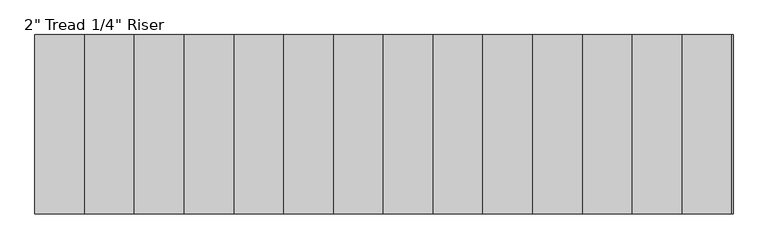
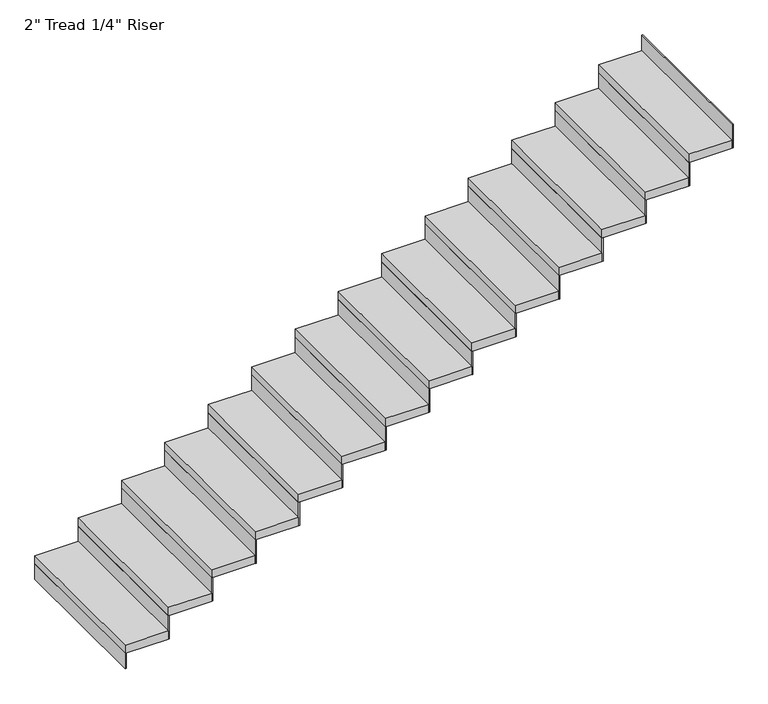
"""IFC4 building model written with IfcOpenShell, lengths in millimetres: stair flight geometry."""

from ifc_helpers import new_model, si_unit, frame, origin, origin_with_axes, place, context, project, spatial, polyline, outline, extrude, source, transform, mapped, element, save


def stair_flight_0488f1b2(model_context):
    return source(origin(), model_context, "Body", "SweptSolid", [
        extrude(outline(polyline([(84475.4645262, 15846.0395941), (84469.1145262, 15846.0395941), (84469.1145262, 16760.4395941), (84475.4645262, 16760.4395941), (84475.4645262, 15846.0395941)])), origin_with_axes(), (0.0, 0.0, 1.0), 94.3428571),
        extrude(outline(polyline([(84723.1145262, 16760.4395941), (84723.1145262, 15846.0395941), (84469.1145262, 15846.0395941), (84469.1145262, 16760.4395941), (84723.1145262, 16760.4395941)])), frame((0.0, 0.0, 94.3428571), z_axis=(0.0, 0.0, 1.0), x_axis=(1.0, 0.0, 0.0)), (0.0, 0.0, 1.0), 50.8),
        extrude(outline(polyline([(84729.4645262, 15846.0395941), (84723.1145262, 15846.0395941), (84723.1145262, 16760.4395941), (84729.4645262, 16760.4395941), (84729.4645262, 15846.0395941)])), frame((0.0, 0.0, 94.3428571), z_axis=(0.0, 0.0, 1.0), x_axis=(1.0, 0.0, 0.0)), (0.0, 0.0, 1.0), 145.1428571),
        extrude(outline(polyline([(84977.1145262, 16760.4395941), (84977.1145262, 15846.0395941), (84723.1145262, 15846.0395941), (84723.1145262, 16760.4395941), (84977.1145262, 16760.4395941)])), frame((0.0, 0.0, 239.4857143), z_axis=(0.0, 0.0, 1.0), x_axis=(1.0, 0.0, 0.0)), (0.0, 0.0, 1.0), 50.8),
        extrude(outline(polyline([(84983.4645262, 15846.0395941), (84977.1145262, 15846.0395941), (84977.1145262, 16760.4395941), (84983.4645262, 16760.4395941), (84983.4645262, 15846.0395941)])), frame((0.0, 0.0, 239.4857143), z_axis=(0.0, 0.0, 1.0), x_axis=(1.0, 0.0, 0.0)), (0.0, 0.0, 1.0), 145.1428571),
        extrude(outline(polyline([(85231.1145262, 16760.4395941), (85231.1145262, 15846.0395941), (84977.1145262, 15846.0395941), (84977.1145262, 16760.4395941), (85231.1145262, 16760.4395941)])), frame((0.0, 0.0, 384.6285714), z_axis=(0.0, 0.0, 1.0), x_axis=(1.0, 0.0, 0.0)), (0.0, 0.0, 1.0), 50.8),
        extrude(outline(polyline([(85237.4645262, 15846.0395941), (85231.1145262, 15846.0395941), (85231.1145262, 16760.4395941), (85237.4645262, 16760.4395941), (85237.4645262, 15846.0395941)])), frame((0.0, 0.0, 384.6285714), z_axis=(0.0, 0.0, 1.0), x_axis=(1.0, 0.0, 0.0)), (0.0, 0.0, 1.0), 145.1428571),
        extrude(outline(polyline([(85485.1145262, 16760.4395941), (85485.1145262, 15846.0395941), (85231.1145262, 15846.0395941), (85231.1145262, 16760.4395941), (85485.1145262, 16760.4395941)])), frame((0.0, 0.0, 529.7714286), z_axis=(0.0, 0.0, 1.0), x_axis=(1.0, 0.0, 0.0)), (0.0, 0.0, 1.0), 50.8),
        extrude(outline(polyline([(85491.4645262, 15846.0395941), (85485.1145262, 15846.0395941), (85485.1145262, 16760.4395941), (85491.4645262, 16760.4395941), (85491.4645262, 15846.0395941)])), frame((0.0, 0.0, 529.7714286), z_axis=(0.0, 0.0, 1.0), x_axis=(1.0, 0.0, 0.0)), (0.0, 0.0, 1.0), 145.1428571),
        extrude(outline(polyline([(85739.1145262, 16760.4395941), (85739.1145262, 15846.0395941), (85485.1145262, 15846.0395941), (85485.1145262, 16760.4395941), (85739.1145262, 16760.4395941)])), frame((0.0, 0.0, 674.9142857), z_axis=(0.0, 0.0, 1.0), x_axis=(1.0, 0.0, 0.0)), (0.0, 0.0, 1.0), 50.8),
        extrude(outline(polyline([(85745.4645262, 15846.0395941), (85739.1145262, 15846.0395941), (85739.1145262, 16760.4395941), (85745.4645262, 16760.4395941), (85745.4645262, 15846.0395941)])), frame((0.0, 0.0, 674.9142857), z_axis=(0.0, 0.0, 1.0), x_axis=(1.0, 0.0, 0.0)), (0.0, 0.0, 1.0), 145.1428571),
        extrude(outline(polyline([(85993.1145262, 16760.4395941), (85993.1145262, 15846.0395941), (85739.1145262, 15846.0395941), (85739.1145262, 16760.4395941), (85993.1145262, 16760.4395941)])), frame((0.0, 0.0, 820.0571429), z_axis=(0.0, 0.0, 1.0), x_axis=(1.0, 0.0, 0.0)), (0.0, 0.0, 1.0), 50.8),
        extrude(outline(polyline([(85999.4645262, 15846.0395941), (85993.1145262, 15846.0395941), (85993.1145262, 16760.4395941), (85999.4645262, 16760.4395941), (85999.4645262, 15846.0395941)])), frame((0.0, 0.0, 820.0571429), z_axis=(0.0, 0.0, 1.0), x_axis=(1.0, 0.0, 0.0)), (0.0, 0.0, 1.0), 145.1428571),
        extrude(outline(polyline([(86247.1145262, 16760.4395941), (86247.1145262, 15846.0395941), (85993.1145262, 15846.0395941), (85993.1145262, 16760.4395941), (86247.1145262, 16760.4395941)])), frame((0.0, 0.0, 965.2), z_axis=(0.0, 0.0, 1.0), x_axis=(1.0, 0.0, 0.0)), (0.0, 0.0, 1.0), 50.8),
        extrude(outline(polyline([(86253.4645262, 15846.0395941), (86247.1145262, 15846.0395941), (86247.1145262, 16760.4395941), (86253.4645262, 16760.4395941), (86253.4645262, 15846.0395941)])), frame((0.0, 0.0, 965.2), z_axis=(0.0, 0.0, 1.0), x_axis=(1.0, 0.0, 0.0)), (0.0, 0.0, 1.0), 145.1428571),
        extrude(outline(polyline([(86501.1145262, 16760.4395941), (86501.1145262, 15846.0395941), (86247.1145262, 15846.0395941), (86247.1145262, 16760.4395941), (86501.1145262, 16760.4395941)])), frame((0.0, 0.0, 1110.3428571), z_axis=(0.0, 0.0, 1.0), x_axis=(1.0, 0.0, 0.0)), (0.0, 0.0, 1.0), 50.8),
        extrude(outline(polyline([(86507.4645262, 15846.0395941), (86501.1145262, 15846.0395941), (86501.1145262, 16760.4395941), (86507.4645262, 16760.4395941), (86507.4645262, 15846.0395941)])), frame((0.0, 0.0, 1110.3428571), z_axis=(0.0, 0.0, 1.0), x_axis=(1.0, 0.0, 0.0)), (0.0, 0.0, 1.0), 145.1428571),
        extrude(outline(polyline([(86755.1145262, 16760.4395941), (86755.1145262, 15846.0395941), (86501.1145262, 15846.0395941), (86501.1145262, 16760.4395941), (86755.1145262, 16760.4395941)])), frame((0.0, 0.0, 1255.4857143), z_axis=(0.0, 0.0, 1.0), x_axis=(1.0, 0.0, 0.0)), (0.0, 0.0, 1.0), 50.8),
        extrude(outline(polyline([(86761.4645262, 15846.0395941), (86755.1145262, 15846.0395941), (86755.1145262, 16760.4395941), (86761.4645262, 16760.4395941), (86761.4645262, 15846.0395941)])), frame((0.0, 0.0, 1255.4857143), z_axis=(0.0, 0.0, 1.0), x_axis=(1.0, 0.0, 0.0)), (0.0, 0.0, 1.0), 145.1428571),
        extrude(outline(polyline([(87009.1145262, 16760.4395941), (87009.1145262, 15846.0395941), (86755.1145262, 15846.0395941), (86755.1145262, 16760.4395941), (87009.1145262, 16760.4395941)])), frame((0.0, 0.0, 1400.6285714), z_axis=(0.0, 0.0, 1.0), x_axis=(1.0, 0.0, 0.0)), (0.0, 0.0, 1.0), 50.8),
        extrude(outline(polyline([(87015.4645262, 15846.0395941), (87009.1145262, 15846.0395941), (87009.1145262, 16760.4395941), (87015.4645262, 16760.4395941), (87015.4645262, 15846.0395941)])), frame((0.0, 0.0, 1400.6285714), z_axis=(0.0, 0.0, 1.0), x_axis=(1.0, 0.0, 0.0)), (0.0, 0.0, 1.0), 145.1428571),
        extrude(outline(polyline([(87263.1145262, 16760.4395941), (87263.1145262, 15846.0395941), (87009.1145262, 15846.0395941), (87009.1145262, 16760.4395941), (87263.1145262, 16760.4395941)])), frame((0.0, 0.0, 1545.7714286), z_axis=(0.0, 0.0, 1.0), x_axis=(1.0, 0.0, 0.0)), (0.0, 0.0, 1.0), 50.8),
        extrude(outline(polyline([(87269.4645262, 15846.0395941), (87263.1145262, 15846.0395941), (87263.1145262, 16760.4395941), (87269.4645262, 16760.4395941), (87269.4645262, 15846.0395941)])), frame((0.0, 0.0, 1545.7714286), z_axis=(0.0, 0.0, 1.0), x_axis=(1.0, 0.0, 0.0)), (0.0, 0.0, 1.0), 145.1428571),
        extrude(outline(polyline([(87517.1145262, 16760.4395941), (87517.1145262, 15846.0395941), (87263.1145262, 15846.0395941), (87263.1145262, 16760.4395941), (87517.1145262, 16760.4395941)])), frame((0.0, 0.0, 1690.9142857), z_axis=(0.0, 0.0, 1.0), x_axis=(1.0, 0.0, 0.0)), (0.0, 0.0, 1.0), 50.8),
        extrude(outline(polyline([(87523.4645262, 15846.0395941), (87517.1145262, 15846.0395941), (87517.1145262, 16760.4395941), (87523.4645262, 16760.4395941), (87523.4645262, 15846.0395941)])), frame((0.0, 0.0, 1690.9142857), z_axis=(0.0, 0.0, 1.0), x_axis=(1.0, 0.0, 0.0)), (0.0, 0.0, 1.0), 145.1428571),
        extrude(outline(polyline([(87771.1145262, 16760.4395941), (87771.1145262, 15846.0395941), (87517.1145262, 15846.0395941), (87517.1145262, 16760.4395941), (87771.1145262, 16760.4395941)])), frame((0.0, 0.0, 1836.0571429), z_axis=(0.0, 0.0, 1.0), x_axis=(1.0, 0.0, 0.0)), (0.0, 0.0, 1.0), 50.8),
        extrude(outline(polyline([(87777.4645262, 15846.0395941), (87771.1145262, 15846.0395941), (87771.1145262, 16760.4395941), (87777.4645262, 16760.4395941), (87777.4645262, 15846.0395941)])), frame((0.0, 0.0, 1836.0571429), z_axis=(0.0, 0.0, 1.0), x_axis=(1.0, 0.0, 0.0)), (0.0, 0.0, 1.0), 145.1428571),
        extrude(outline(polyline([(88031.4645262, 15846.0395941), (88025.1145262, 15846.0395941), (88025.1145262, 16760.4395941), (88031.4645262, 16760.4395941), (88031.4645262, 15846.0395941)])), frame((0.0, 0.0, 1981.2), z_axis=(0.0, 0.0, 1.0), x_axis=(1.0, 0.0, 0.0)), (0.0, 0.0, 1.0), 145.1428571),
        extrude(outline(polyline([(88025.1145262, 16760.4395941), (88025.1145262, 15846.0395941), (87771.1145262, 15846.0395941), (87771.1145262, 16760.4395941), (88025.1145262, 16760.4395941)])), frame((0.0, 0.0, 1981.2), z_axis=(0.0, 0.0, 1.0), x_axis=(1.0, 0.0, 0.0)), (0.0, 0.0, 1.0), 50.8),
    ])


if __name__ == "__main__":
    model = new_model("IFC4")
    model_context = context("Model", 3, world=origin())
    ifc_project = project(units=[si_unit("LENGTHUNIT", "METRE", prefix="MILLI")], contexts=[model_context])
    site = spatial("IfcSite", under=ifc_project)
    building = spatial("IfcBuilding", under=site)
    placement = place(None, origin())
    stair_flight_shape = stair_flight_0488f1b2(model_context)
    element("IfcStairFlight", 1, ObjectType="2\" Tread 1/4\" Riser", at=placement, inside=building, context=model_context, shape_type="MappedRepresentation", body=[
        mapped(stair_flight_shape, transform((0.0, 0.0, 0.0), x_axis=(1.0, 0.0, 0.0), y_axis=(0.0, 1.0, 0.0), z_axis=(0.0, 0.0, 1.0))),
    ])
    save(model, "model.ifc")
